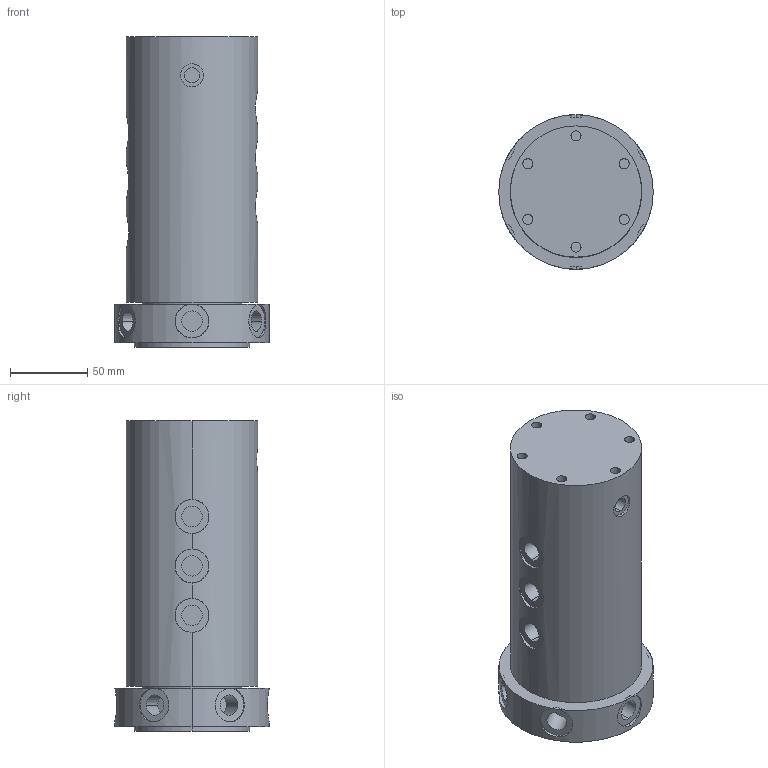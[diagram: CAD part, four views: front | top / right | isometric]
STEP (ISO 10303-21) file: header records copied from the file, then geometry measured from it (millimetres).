
FILE_DESCRIPTION (( 'STEP AP203' ), '1' );
FILE_NAME ('5110 266.STEP', '2016-01-29T10:33:13', ( '' ), ( '' ), 'SwSTEP 2.0', 'SolidWorks 2015', '' );
FILE_SCHEMA (( 'CONFIG_CONTROL_DESIGN' ));
Length unit declared in the file: millimetre
Products named in the file (1): 5110 266
Bounding box: 100 x 100 x 201 mm (x, y, z)
Volume: 1136703.6 mm3; surface area: 91398.2 mm2
Topology: 1 solids, 1 shells, 163 faces, 330 edges, 216 vertices
Faces by surface type: cylinder 108, plane 55
Entity records: 5611 total; most frequent: CARTESIAN_POINT 1958, DIRECTION 822, ORIENTED_EDGE 660, AXIS2_PLACEMENT_3D 354, EDGE_CURVE 330, VERTEX_POINT 216, EDGE_LOOP 210, CIRCLE 190
